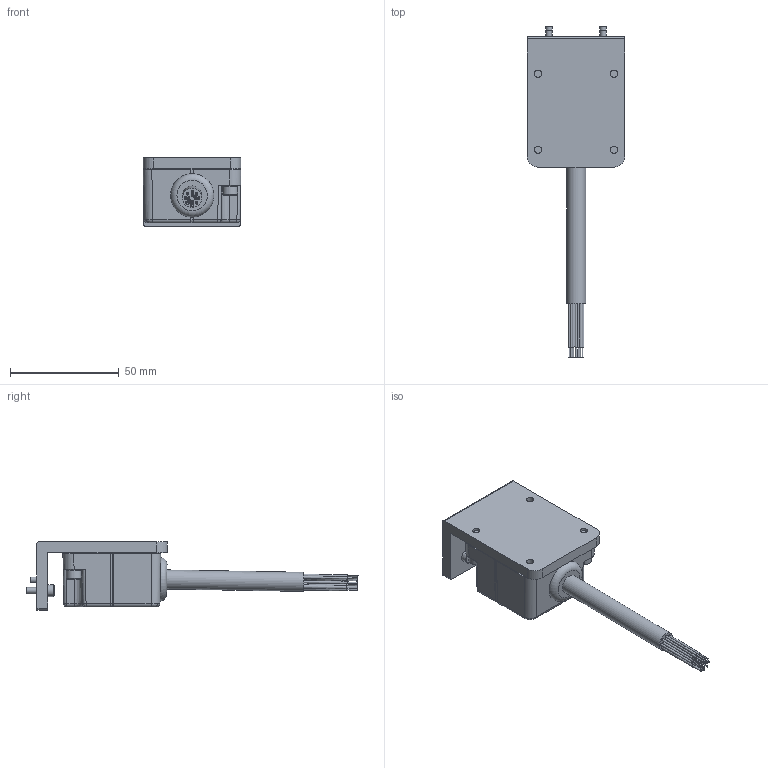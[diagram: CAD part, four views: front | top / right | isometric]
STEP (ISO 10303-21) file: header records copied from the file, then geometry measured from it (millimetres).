
FILE_DESCRIPTION(('STEP AP214'),'1');
FILE_NAME('KHB-12_25RS-NN12,NP12_ver1.stp','2026-04-27T04:12:45',(' '),(' '),'Spatial InterOp 3D',' ',' ');
FILE_SCHEMA(('AUTOMOTIVE_DESIGN { 1 0 10303 214 1 1 1 1 }'));
Length unit declared in the file: millimetre
Products named in the file (1): KHB-12~25RS-NN12,NP12_ver1
Bounding box: 45 x 152.84 x 31.5 mm (x, y, z)
Volume: 70559.4 mm3; surface area: 21056.9 mm2
Topology: 1 solids, 3 shells, 270 faces, 598 edges, 385 vertices
Faces by surface type: plane 117, cylinder 104, cone 18, bspline 16, torus 11, sphere 4
Full cylindrical faces by diameter (mm): 0.6 x12, 1 x14, 1.5 x2, 2.5 x4, 3.3 x4, 3.5 x2, 4.4 x2, 5.41 x2, 6 x2, 6.9 x2, 8.8 x1
Entity records: 9601 total; most frequent: CARTESIAN_POINT 1850, DIRECTION 1175, ORIENTED_EDGE 1024, EDGE_CURVE 512, AXIS2_PLACEMENT_3D 472, EDGE_LOOP 395, VERTEX_POINT 359, FACE_OUTER_BOUND 318
